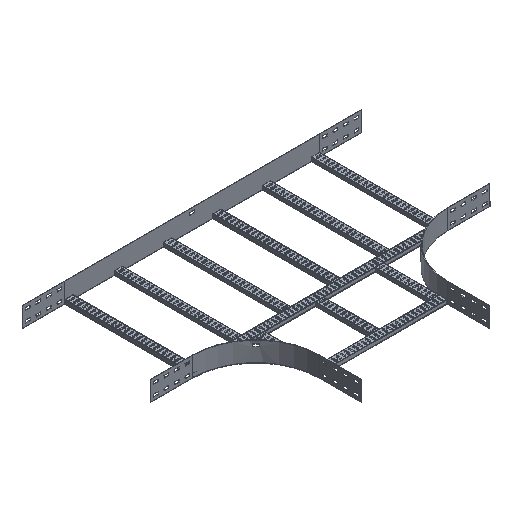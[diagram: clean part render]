
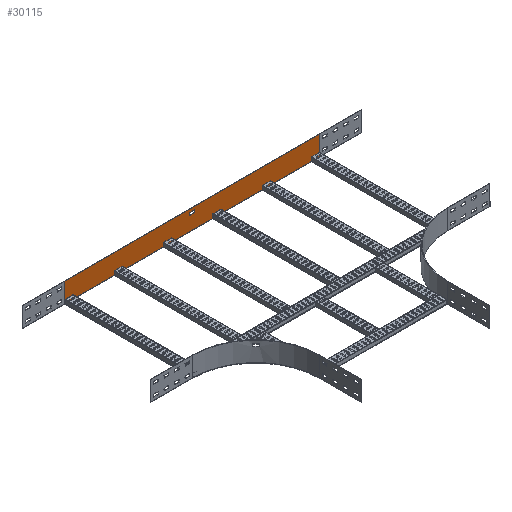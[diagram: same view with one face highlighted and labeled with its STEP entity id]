
A CAD part, isometric view. The second image highlights one B-rep face of the part: STEP entity #30115.
In plain terms, the highlighted planar face has unit normal (0, -1, 0).
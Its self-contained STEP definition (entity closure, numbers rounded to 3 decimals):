
#1309=FACE_BOUND('',#6143,.T.);
#4085=FACE_OUTER_BOUND('',#6142,.T.);
#6142=EDGE_LOOP('',(#27646,#27647,#27648,#27649));
#6143=EDGE_LOOP('',(#27650,#27651,#27652,#27653));
#9061=LINE('',#66459,#12049);
#9063=LINE('',#66465,#12051);
#9066=LINE('',#66470,#12054);
#9073=LINE('',#66483,#12061);
#9074=LINE('',#66487,#12062);
#9075=LINE('',#66489,#12063);
#9076=LINE('',#66491,#12064);
#9077=LINE('',#66492,#12065);
#12049=VECTOR('',#39450,304.8);
#12051=VECTOR('',#39454,304.8);
#12054=VECTOR('',#39459,304.8);
#12061=VECTOR('',#39470,304.8);
#12062=VECTOR('',#39473,304.8);
#12063=VECTOR('',#39474,304.8);
#12064=VECTOR('',#39475,304.8);
#12065=VECTOR('',#39476,304.8);
#14946=VERTEX_POINT('',#66452);
#14949=VERTEX_POINT('',#66457);
#14951=VERTEX_POINT('',#66462);
#14952=VERTEX_POINT('',#66464);
#14958=VERTEX_POINT('',#66485);
#14959=VERTEX_POINT('',#66486);
#14960=VERTEX_POINT('',#66488);
#14961=VERTEX_POINT('',#66490);
#19189=EDGE_CURVE('',#14949,#14946,#9061,.T.);
#19191=EDGE_CURVE('',#14951,#14952,#9063,.T.);
#19194=EDGE_CURVE('',#14946,#14951,#9066,.T.);
#19201=EDGE_CURVE('',#14952,#14949,#9073,.T.);
#19202=EDGE_CURVE('',#14958,#14959,#9074,.T.);
#19203=EDGE_CURVE('',#14959,#14960,#9075,.T.);
#19204=EDGE_CURVE('',#14960,#14961,#9076,.T.);
#19205=EDGE_CURVE('',#14961,#14958,#9077,.T.);
#27646=ORIENTED_EDGE('',*,*,#19189,.F.);
#27647=ORIENTED_EDGE('',*,*,#19201,.F.);
#27648=ORIENTED_EDGE('',*,*,#19191,.F.);
#27649=ORIENTED_EDGE('',*,*,#19194,.F.);
#27650=ORIENTED_EDGE('',*,*,#19202,.T.);
#27651=ORIENTED_EDGE('',*,*,#19203,.T.);
#27652=ORIENTED_EDGE('',*,*,#19204,.T.);
#27653=ORIENTED_EDGE('',*,*,#19205,.T.);
#28657=PLANE('',#32296);
#30115=ADVANCED_FACE('',(#4085,#1309),#28657,.T.);
#32296=AXIS2_PLACEMENT_3D('',#66484,#39471,#39472);
#39450=DIRECTION('',(0.,0.,1.));
#39454=DIRECTION('',(0.,0.,-1.));
#39459=DIRECTION('',(1.,0.,0.));
#39470=DIRECTION('',(-1.,0.,0.));
#39471=DIRECTION('center_axis',(0.,-1.,0.));
#39472=DIRECTION('ref_axis',(1.,0.,0.));
#39473=DIRECTION('',(-1.,0.,0.));
#39474=DIRECTION('',(0.,0.,1.));
#39475=DIRECTION('',(1.,0.,0.));
#39476=DIRECTION('',(0.,0.,-1.));
#66452=CARTESIAN_POINT('',(-605.5,302.5,47.));
#66457=CARTESIAN_POINT('',(-605.5,302.5,-47.));
#66459=CARTESIAN_POINT('',(-605.5,302.5,-47.));
#66462=CARTESIAN_POINT('',(605.5,302.5,47.));
#66464=CARTESIAN_POINT('',(605.5,302.5,-47.));
#66465=CARTESIAN_POINT('',(605.5,302.5,47.));
#66470=CARTESIAN_POINT('',(-605.5,302.5,47.));
#66483=CARTESIAN_POINT('',(-605.5,302.5,-47.));
#66484=CARTESIAN_POINT('Origin',(-605.5,302.5,-47.));
#66485=CARTESIAN_POINT('',(12.5,302.5,20.46));
#66486=CARTESIAN_POINT('',(-12.5,302.5,20.46));
#66487=CARTESIAN_POINT('',(12.5,302.5,20.46));
#66488=CARTESIAN_POINT('',(-12.5,302.5,31.46));
#66489=CARTESIAN_POINT('',(-12.5,302.5,20.46));
#66490=CARTESIAN_POINT('',(12.5,302.5,31.46));
#66491=CARTESIAN_POINT('',(-12.5,302.5,31.46));
#66492=CARTESIAN_POINT('',(12.5,302.5,31.46));
